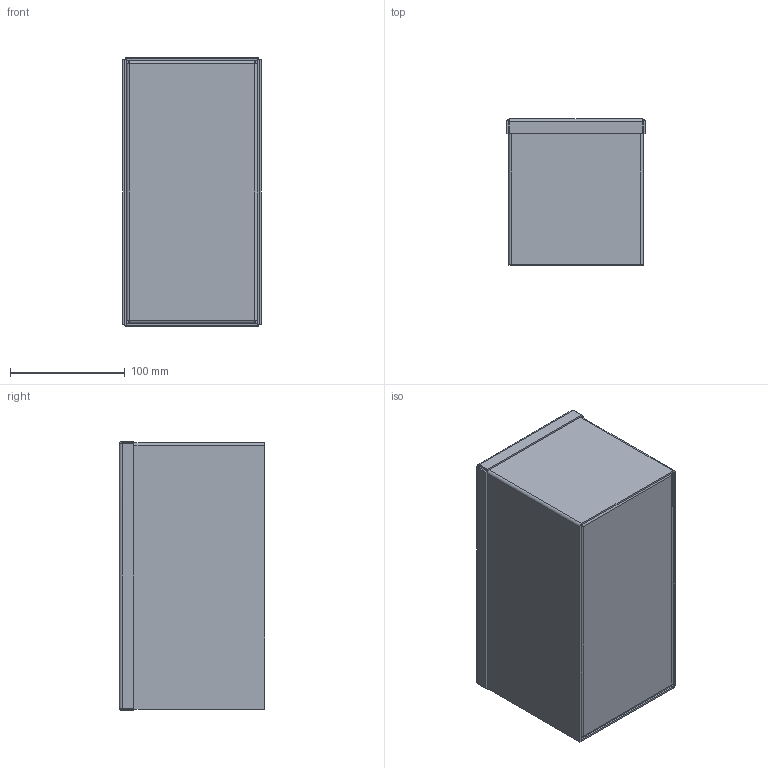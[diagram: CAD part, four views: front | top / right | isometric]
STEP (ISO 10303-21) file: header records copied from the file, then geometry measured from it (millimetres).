
FILE_DESCRIPTION (( 'STEP AP203' ), '1' );
FILE_NAME ('MT-BBT-208V-230V-25A-SS-N4X.STEP', '2026-06-19T18:44:19', ( '' ), ( '' ), 'SwSTEP 2.0', 'SolidWorks 2020', '' );
FILE_SCHEMA (( 'CONFIG_CONTROL_DESIGN' ));
Length unit declared in the file: inch
Products named in the file (4): MT-BBT-208V-230V-25A-SS-N4X-Part#2; MT-BBT-208V-230V-25A-SS-N4X; MT-BBT-208V-230V-25A-SS-N4X-Part#3; MT-BBT-208V-230V-25A-SS-N4X-Part#1
Assembly tree (3 placements, depth 2):
  MT-BBT-208V-230V-25A-SS-N4X
    MT-BBT-208V-230V-25A-SS-N4X-Part#1
    MT-BBT-208V-230V-25A-SS-N4X-Part#2
    MT-BBT-208V-230V-25A-SS-N4X-Part#3
Bounding box: 120.65 x 127 x 234.95 mm (x, y, z)
Volume: 236762.6 mm3; surface area: 315591.7 mm2
Topology: 3 solids, 3 shells, 106 faces, 212 edges, 112 vertices
Faces by surface type: plane 68, cylinder 22, bspline 16
Entity records: 3742 total; most frequent: CARTESIAN_POINT 1284, ORIENTED_EDGE 424, DIRECTION 384, EDGE_CURVE 212, LINE 168, VECTOR 168, VERTEX_POINT 112, AXIS2_PLACEMENT_3D 108
